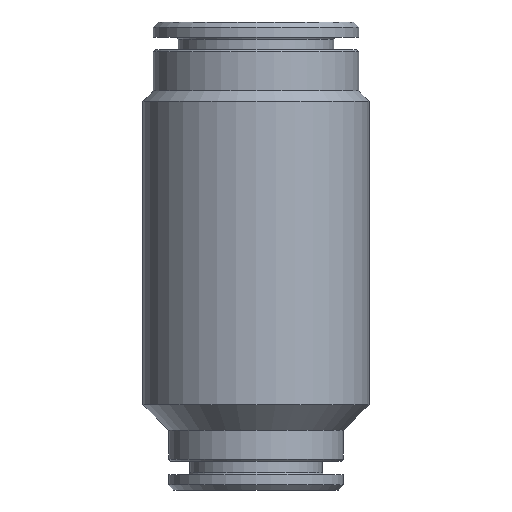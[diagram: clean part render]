
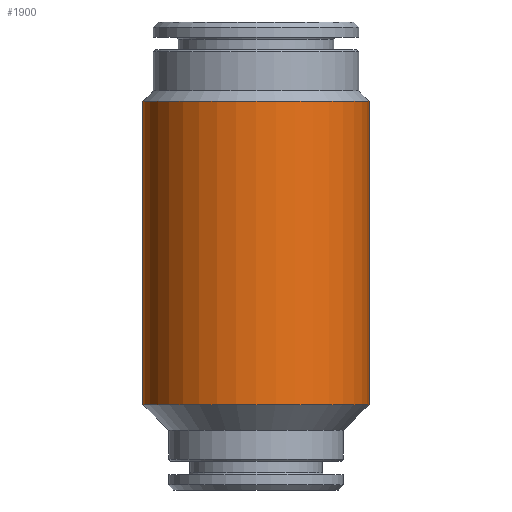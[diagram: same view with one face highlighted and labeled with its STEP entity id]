
A CAD part, front view. The second image highlights one B-rep face of the part: STEP entity #1900.
In plain terms, the highlighted cylindrical face has radius 11 mm (diameter 22 mm), a full revolution.
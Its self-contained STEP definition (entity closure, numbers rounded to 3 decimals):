
#1900=ADVANCED_FACE('', (#1910,#1920), #1930, .T.);
#6280=AXIS2_PLACEMENT_3D('Ax2Pl3d', #6290, #6300, #6310);
#6360=AXIS2_PLACEMENT_3D('Ax2Pl3d', #6370, #6380, #6390);
#6400=AXIS2_PLACEMENT_3D('Ax2Pl3d', #6410, #6420, #6430);
#6290=CARTESIAN_POINT('HicPkt', (16.791,15.032,
12.475));
#8070=CARTESIAN_POINT('', (5.791,15.032,12.475));
#6370=CARTESIAN_POINT('HicPkt', (16.791,15.032,
12.475));
#6410=CARTESIAN_POINT('HicPkt', (16.791,15.032,
41.975));
#8090=CARTESIAN_POINT('', (5.791,15.032,41.975));
#8670=CIRCLE('Circle', #6280, 11.);
#8690=CIRCLE('Circle', #6400, 11.);
#1930=CYLINDRICAL_SURFACE('Zyl', #6360, 11.);
#6300=DIRECTION('Axis', (0.,0.,1.));
#6310=DIRECTION('RefDirection', (1.,0.,-0.));
#6380=DIRECTION('Axis', (0.,0.,1.));
#6390=DIRECTION('RefDirection', (1.,0.,-0.));
#6420=DIRECTION('Axis', (0.,0.,1.));
#6430=DIRECTION('RefDirection', (1.,0.,-0.));
#11660=EDGE_CURVE('', #11670, #11670, #8670, .T.);
#11700=EDGE_CURVE('', #11710, #11710, #8690, .T.);
#13740=EDGE_LOOP('Edge_loop', (#13750));
#13760=EDGE_LOOP('Edge_loop', (#13770));
#1920=FACE_BOUND('', #13760, .T.);
#1910=FACE_OUTER_BOUND('Face_outer_bound', #13740, .T.);
#13750=ORIENTED_EDGE('', *, *, #11700, .F.);
#13770=ORIENTED_EDGE('', *, *, #11660, .T.);
#11670=VERTEX_POINT('', #8070);
#11710=VERTEX_POINT('', #8090);
